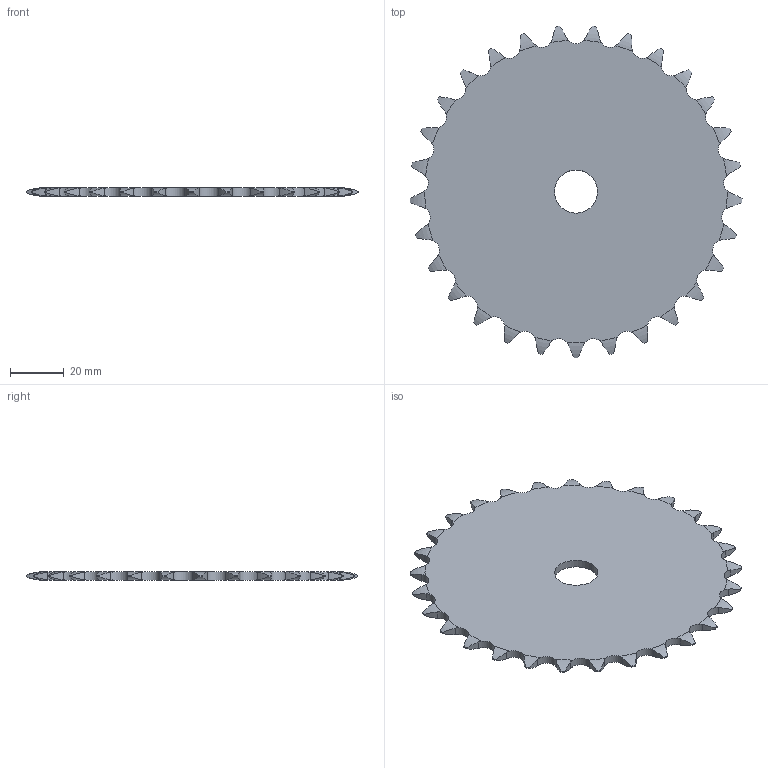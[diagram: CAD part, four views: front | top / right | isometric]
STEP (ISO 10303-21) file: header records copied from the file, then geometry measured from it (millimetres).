
FILE_DESCRIPTION((''),'2;1');
FILE_NAME('500-201-0029_PRT','2021-02-12T',('Brieden'),('Brieden'),'PRO/ENGINEER BY PARAMETRIC TECHNOLOGY CORPORATION, 2010160','PRO/ENGINEER BY PARAMETRIC TECHNOLOGY CORPORATION, 2010160','');
FILE_SCHEMA(('AUTOMOTIVE_DESIGN { 1 0 10303 214 1 1 1 1 }'));
Length unit declared in the file: millimetre
Products named in the file (1): 500-201-0029_PRT
Bounding box: 123 x 122.83 x 3 mm (x, y, z)
Volume: 30135.2 mm3; surface area: 21852.1 mm2
Topology: 1 solids, 1 shells, 178 faces, 528 edges, 352 vertices
Faces by surface type: cylinder 118, torus 58, plane 2
Entity records: 8588 total; most frequent: CARTESIAN_POINT 2445, ORIENTED_EDGE 1056, DIRECTION 830, PRESENTATION_STYLE_ASSIGNMENT 529, STYLED_ITEM 529, CURVE_STYLE 528, EDGE_CURVE 528, AXIS2_PLACEMENT_3D 356
